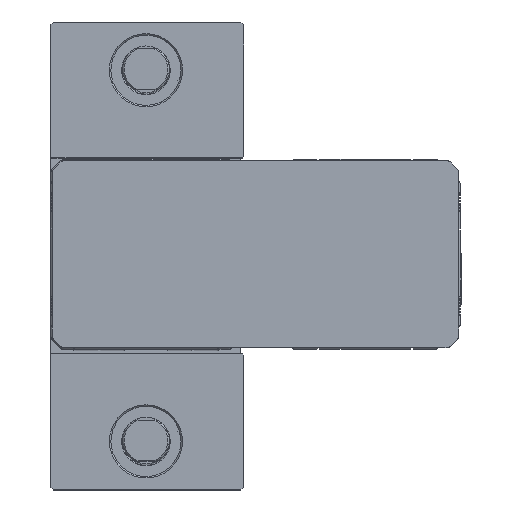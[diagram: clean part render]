
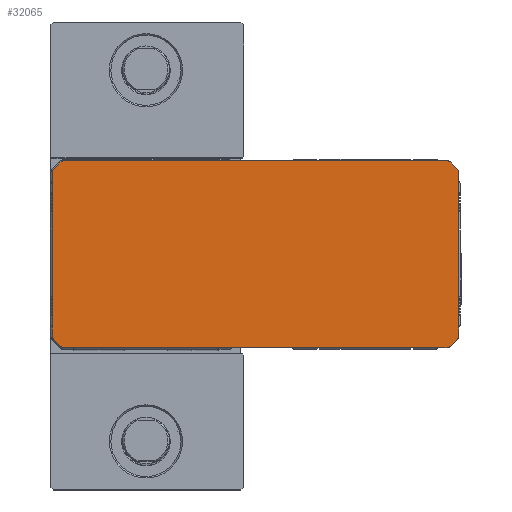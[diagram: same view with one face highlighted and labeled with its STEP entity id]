
A CAD part, top view. The second image highlights one B-rep face of the part: STEP entity #32065.
In plain terms, the highlighted planar face has unit normal (0, 0, 1).
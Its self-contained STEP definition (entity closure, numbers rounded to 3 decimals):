
#46 = AXIS2_PLACEMENT_3D ( 'NONE', #1013, #25452, #4565 ) ;
#91 = CARTESIAN_POINT ( 'NONE',  ( -32., 28., 344. ) ) ;
#234 = CARTESIAN_POINT ( 'NONE',  ( -29.061, 31.561, 344. ) ) ;
#371 = LINE ( 'NONE', #8958, #44688 ) ;
#552 = CIRCLE ( 'NONE', #29311, 1.5 ) ;
#808 = ORIENTED_EDGE ( 'NONE', *, *, #37105, .T. ) ;
#1013 = CARTESIAN_POINT ( 'NONE',  ( -30.5, -28., 344. ) ) ;
#1243 = DIRECTION ( 'NONE',  ( 0., 0., 1. ) ) ;
#1367 = CARTESIAN_POINT ( 'NONE',  ( 105.5, 28., 344. ) ) ;
#1416 = CIRCLE ( 'NONE', #10298, 1.5 ) ;
#2020 = VERTEX_POINT ( 'NONE', #234 ) ;
#3223 = DIRECTION ( 'NONE',  ( 1., 0., 0. ) ) ;
#3595 = ORIENTED_EDGE ( 'NONE', *, *, #25665, .T. ) ;
#4100 = CIRCLE ( 'NONE', #27223, 1.5 ) ;
#4107 = CARTESIAN_POINT ( 'NONE',  ( -29.061, -31.561, 344. ) ) ;
#4348 = EDGE_CURVE ( 'NONE', #23071, #24529, #371, .T. ) ;
#4448 = VECTOR ( 'NONE', #20276, 1000. ) ;
#4565 = DIRECTION ( 'NONE',  ( 1., 0., 0. ) ) ;
#4678 = EDGE_LOOP ( 'NONE', ( #3595, #41159, #43496, #43260, #43457, #32438, #36754, #17092, #20599, #29316, #40798, #29365, #5060, #808, #43848, #41494 ) ) ;
#4919 = DIRECTION ( 'NONE',  ( 1., 0., 0. ) ) ;
#5060 = ORIENTED_EDGE ( 'NONE', *, *, #32406, .T. ) ;
#5381 = AXIS2_PLACEMENT_3D ( 'NONE', #35005, #14098, #38540 ) ;
#5844 = EDGE_CURVE ( 'NONE', #45328, #34794, #26478, .T. ) ;
#5929 = CARTESIAN_POINT ( 'NONE',  ( 104.061, -31.561, 344. ) ) ;
#5954 = CARTESIAN_POINT ( 'NONE',  ( 103., 32., 344. ) ) ;
#6509 = VECTOR ( 'NONE', #24790, 1000. ) ;
#6936 = CIRCLE ( 'NONE', #15116, 1.5 ) ;
#7596 = LINE ( 'NONE', #42239, #6509 ) ;
#8443 = EDGE_CURVE ( 'NONE', #28391, #11572, #13519, .T. ) ;
#8958 = CARTESIAN_POINT ( 'NONE',  ( 106.561, 29.061, 344. ) ) ;
#9030 = EDGE_CURVE ( 'NONE', #24529, #39076, #6936, .T. ) ;
#9104 = DIRECTION ( 'NONE',  ( -0.707, 0.707, 0. ) ) ;
#9617 = DIRECTION ( 'NONE',  ( 0., 0., 1. ) ) ;
#10205 = LINE ( 'NONE', #41624, #36950 ) ;
#10298 = AXIS2_PLACEMENT_3D ( 'NONE', #45095, #24131, #3223 ) ;
#10715 = AXIS2_PLACEMENT_3D ( 'NONE', #22165, #1243, #25697 ) ;
#10924 = VECTOR ( 'NONE', #43131, 1000. ) ;
#11572 = VERTEX_POINT ( 'NONE', #26362 ) ;
#12879 = VECTOR ( 'NONE', #15265, 1000. ) ;
#13086 = EDGE_CURVE ( 'NONE', #11572, #38567, #552, .T. ) ;
#13315 = CARTESIAN_POINT ( 'NONE',  ( -28., -32., 344. ) ) ;
#13519 = LINE ( 'NONE', #13315, #31030 ) ;
#13964 = LINE ( 'NONE', #43268, #12879 ) ;
#14011 = DIRECTION ( 'NONE',  ( 0., 0., 1. ) ) ;
#14098 = DIRECTION ( 'NONE',  ( 0., 0., 1. ) ) ;
#14765 = DIRECTION ( 'NONE',  ( 1., 0., 0. ) ) ;
#15116 = AXIS2_PLACEMENT_3D ( 'NONE', #32390, #35001, #28119 ) ;
#15248 = VERTEX_POINT ( 'NONE', #33969 ) ;
#15265 = DIRECTION ( 'NONE',  ( 0.707, -0.707, 0. ) ) ;
#17092 = ORIENTED_EDGE ( 'NONE', *, *, #21567, .T. ) ;
#18430 = CARTESIAN_POINT ( 'NONE',  ( -31.561, 29.061, 344. ) ) ;
#18535 = DIRECTION ( 'NONE',  ( 0., 0., 1. ) ) ;
#19070 = EDGE_CURVE ( 'NONE', #21526, #38077, #37455, .T. ) ;
#19102 = CIRCLE ( 'NONE', #5381, 1.5 ) ;
#19953 = CARTESIAN_POINT ( 'NONE',  ( 107., -28., 344. ) ) ;
#20002 = CARTESIAN_POINT ( 'NONE',  ( 104.061, 31.561, 344. ) ) ;
#20102 = EDGE_CURVE ( 'NONE', #38567, #21526, #20168, .T. ) ;
#20168 = LINE ( 'NONE', #21994, #10924 ) ;
#20276 = DIRECTION ( 'NONE',  ( -1., 0., 0. ) ) ;
#20337 = CARTESIAN_POINT ( 'NONE',  ( 106.561, -29.061, 344. ) ) ;
#20380 = CARTESIAN_POINT ( 'NONE',  ( -32., -28., 344. ) ) ;
#20599 = ORIENTED_EDGE ( 'NONE', *, *, #30964, .T. ) ;
#20635 = DIRECTION ( 'NONE',  ( 0., 1., 0. ) ) ;
#21526 = VERTEX_POINT ( 'NONE', #20337 ) ;
#21567 = EDGE_CURVE ( 'NONE', #38077, #35836, #10205, .T. ) ;
#21994 = CARTESIAN_POINT ( 'NONE',  ( 104.061, -31.561, 344. ) ) ;
#22165 = CARTESIAN_POINT ( 'NONE',  ( -28., -30.5, 344. ) ) ;
#23071 = VERTEX_POINT ( 'NONE', #28233 ) ;
#23308 = CARTESIAN_POINT ( 'NONE',  ( -28., 32., 344. ) ) ;
#23326 = DIRECTION ( 'NONE',  ( 0., -1., 0. ) ) ;
#23572 = CARTESIAN_POINT ( 'NONE',  ( -32., 28., 344. ) ) ;
#24131 = DIRECTION ( 'NONE',  ( 0., 0., 1. ) ) ;
#24529 = VERTEX_POINT ( 'NONE', #20002 ) ;
#24790 = DIRECTION ( 'NONE',  ( -0.707, -0.707, 0. ) ) ;
#25390 = EDGE_CURVE ( 'NONE', #39076, #34668, #40506, .T. ) ;
#25452 = DIRECTION ( 'NONE',  ( 0., 0., 1. ) ) ;
#25665 = EDGE_CURVE ( 'NONE', #34794, #15248, #40635, .T. ) ;
#25697 = DIRECTION ( 'NONE',  ( 1., 0., 0. ) ) ;
#25819 = DIRECTION ( 'NONE',  ( 0., 0., 1. ) ) ;
#26049 = FACE_OUTER_BOUND ( 'NONE', #4678, .T. ) ;
#26362 = CARTESIAN_POINT ( 'NONE',  ( 103., -32., 344. ) ) ;
#26478 = LINE ( 'NONE', #23572, #43993 ) ;
#27223 = AXIS2_PLACEMENT_3D ( 'NONE', #1367, #25819, #4919 ) ;
#28119 = DIRECTION ( 'NONE',  ( 1., 0., 0. ) ) ;
#28233 = CARTESIAN_POINT ( 'NONE',  ( 106.561, 29.061, 344. ) ) ;
#28391 = VERTEX_POINT ( 'NONE', #41284 ) ;
#29311 = AXIS2_PLACEMENT_3D ( 'NONE', #34924, #14011, #38459 ) ;
#29316 = ORIENTED_EDGE ( 'NONE', *, *, #4348, .T. ) ;
#29365 = ORIENTED_EDGE ( 'NONE', *, *, #25390, .T. ) ;
#30359 = EDGE_CURVE ( 'NONE', #15248, #33015, #13964, .T. ) ;
#30541 = CARTESIAN_POINT ( 'NONE',  ( 105.5, -28., 344. ) ) ;
#30964 = EDGE_CURVE ( 'NONE', #35836, #23071, #4100, .T. ) ;
#31030 = VECTOR ( 'NONE', #14765, 1000. ) ;
#31332 = CIRCLE ( 'NONE', #10715, 1.5 ) ;
#31467 = VERTEX_POINT ( 'NONE', #18430 ) ;
#32065 = ADVANCED_FACE ( 'NONE', ( #26049 ), #32405, .T. ) ;
#32390 = CARTESIAN_POINT ( 'NONE',  ( 103., 30.5, 344. ) ) ;
#32405 = PLANE ( 'NONE',  #40137 ) ;
#32406 = EDGE_CURVE ( 'NONE', #34668, #2020, #1416, .T. ) ;
#32438 = ORIENTED_EDGE ( 'NONE', *, *, #20102, .T. ) ;
#33015 = VERTEX_POINT ( 'NONE', #4107 ) ;
#33969 = CARTESIAN_POINT ( 'NONE',  ( -31.561, -29.061, 344. ) ) ;
#34007 = DIRECTION ( 'NONE',  ( 1., 0., 0. ) ) ;
#34668 = VERTEX_POINT ( 'NONE', #23308 ) ;
#34794 = VERTEX_POINT ( 'NONE', #20380 ) ;
#34924 = CARTESIAN_POINT ( 'NONE',  ( 103., -30.5, 344. ) ) ;
#35001 = DIRECTION ( 'NONE',  ( 0., 0., 1. ) ) ;
#35005 = CARTESIAN_POINT ( 'NONE',  ( -30.5, 28., 344. ) ) ;
#35263 = AXIS2_PLACEMENT_3D ( 'NONE', #30541, #9617, #34007 ) ;
#35836 = VERTEX_POINT ( 'NONE', #44178 ) ;
#35924 = CARTESIAN_POINT ( 'NONE',  ( -30.5, -28., 344. ) ) ;
#36002 = CARTESIAN_POINT ( 'NONE',  ( 103., 32., 344. ) ) ;
#36754 = ORIENTED_EDGE ( 'NONE', *, *, #19070, .T. ) ;
#36950 = VECTOR ( 'NONE', #20635, 1000. ) ;
#37105 = EDGE_CURVE ( 'NONE', #2020, #31467, #7596, .T. ) ;
#37455 = CIRCLE ( 'NONE', #35263, 1.5 ) ;
#38077 = VERTEX_POINT ( 'NONE', #19953 ) ;
#38459 = DIRECTION ( 'NONE',  ( 1., 0., 0. ) ) ;
#38540 = DIRECTION ( 'NONE',  ( 1., 0., 0. ) ) ;
#38567 = VERTEX_POINT ( 'NONE', #5929 ) ;
#39076 = VERTEX_POINT ( 'NONE', #36002 ) ;
#40137 = AXIS2_PLACEMENT_3D ( 'NONE', #35924, #18535, #42990 ) ;
#40506 = LINE ( 'NONE', #5954, #4448 ) ;
#40635 = CIRCLE ( 'NONE', #46, 1.5 ) ;
#40798 = ORIENTED_EDGE ( 'NONE', *, *, #9030, .T. ) ;
#41159 = ORIENTED_EDGE ( 'NONE', *, *, #30359, .T. ) ;
#41284 = CARTESIAN_POINT ( 'NONE',  ( -28., -32., 344. ) ) ;
#41494 = ORIENTED_EDGE ( 'NONE', *, *, #5844, .T. ) ;
#41624 = CARTESIAN_POINT ( 'NONE',  ( 107., -28., 344. ) ) ;
#41812 = EDGE_CURVE ( 'NONE', #31467, #45328, #19102, .T. ) ;
#42239 = CARTESIAN_POINT ( 'NONE',  ( -29.061, 31.561, 344. ) ) ;
#42990 = DIRECTION ( 'NONE',  ( 1., 0., 0. ) ) ;
#43131 = DIRECTION ( 'NONE',  ( 0.707, 0.707, 0. ) ) ;
#43260 = ORIENTED_EDGE ( 'NONE', *, *, #8443, .T. ) ;
#43268 = CARTESIAN_POINT ( 'NONE',  ( -31.561, -29.061, 344. ) ) ;
#43457 = ORIENTED_EDGE ( 'NONE', *, *, #13086, .T. ) ;
#43496 = ORIENTED_EDGE ( 'NONE', *, *, #44448, .T. ) ;
#43848 = ORIENTED_EDGE ( 'NONE', *, *, #41812, .T. ) ;
#43993 = VECTOR ( 'NONE', #23326, 1000. ) ;
#44178 = CARTESIAN_POINT ( 'NONE',  ( 107., 28., 344. ) ) ;
#44448 = EDGE_CURVE ( 'NONE', #33015, #28391, #31332, .T. ) ;
#44688 = VECTOR ( 'NONE', #9104, 1000. ) ;
#45095 = CARTESIAN_POINT ( 'NONE',  ( -28., 30.5, 344. ) ) ;
#45328 = VERTEX_POINT ( 'NONE', #91 ) ;
